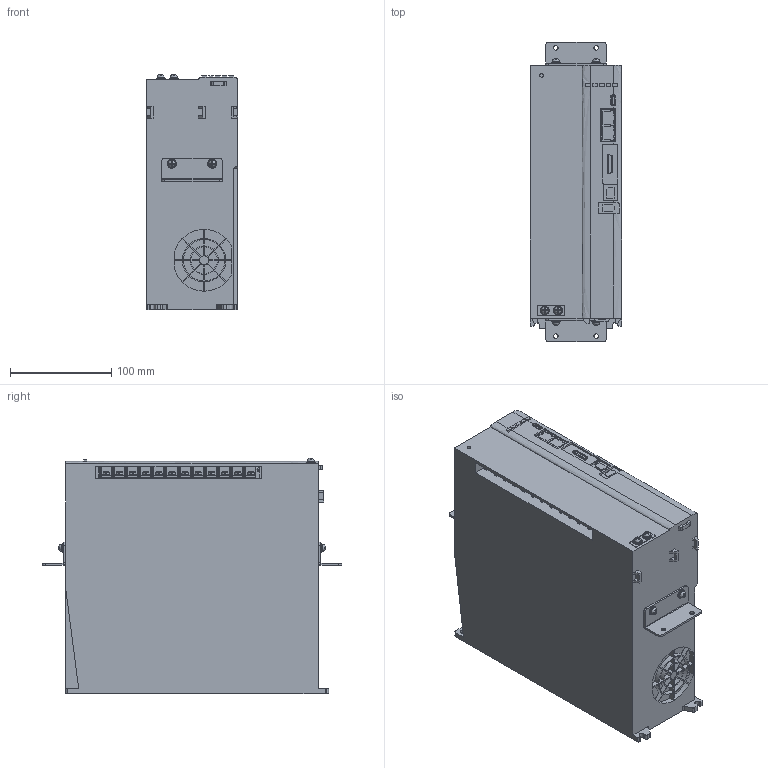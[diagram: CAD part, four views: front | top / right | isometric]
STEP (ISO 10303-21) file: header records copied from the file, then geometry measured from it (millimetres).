
FILE_DESCRIPTION((''),'2;1');
FILE_NAME('ASM0001_ASM','2024-04-01T',('whp'),(''),'CREO PARAMETRIC BY PTC INC, 2018360','CREO PARAMETRIC BY PTC INC, 2018360','');
FILE_SCHEMA(('AUTOMOTIVE_DESIGN { 1 0 10303 214 1 1 1 1 }'));
Products named in the file (23): MSBR-22; MSBR-21; MSBR-20; MSBR-19; MSBR-18; MSBR-17; MSBR-16; MSBR-15; MSBR-14; MSBR-13; MSBR-12; MSBR-11; MSBR-10; MSBR-9; MSBR-8; MSBR-7; MSBR-6; MSBR-5; MSBR-4; MSBR-3; MSBR-2; MSBR-1; ASM0001_ASM
Assembly tree (22 placements, depth 2):
  ASM0001_ASM
    MSBR-22
    MSBR-21
    MSBR-20
    MSBR-19
    MSBR-18
    MSBR-17
    MSBR-16
    MSBR-15
    MSBR-14
    MSBR-13
    MSBR-12
    MSBR-11
    MSBR-10
    MSBR-9
    MSBR-8
    MSBR-7
    MSBR-6
    MSBR-5
    MSBR-4
    MSBR-3
    MSBR-2
    MSBR-1
Bounding box: 90 x 296 x 233.03 mm (x, y, z)
Volume: 5080743.1 mm3; surface area: 259789.9 mm2
Topology: 22 solids, 22 shells, 2035 faces, 5661 edges, 3796 vertices
Faces by surface type: plane 1323, cylinder 616, torus 30, bspline 24, cone 24, extrusion 12, sphere 6
Entity records: 81791 total; most frequent: CARTESIAN_POINT 14106, ORIENTED_EDGE 11322, DIRECTION 10947, EDGE_CURVE 5661, VERTEX_POINT 3796, VECTOR 3703, LINE 3691, AXIS2_PLACEMENT_3D 3622
